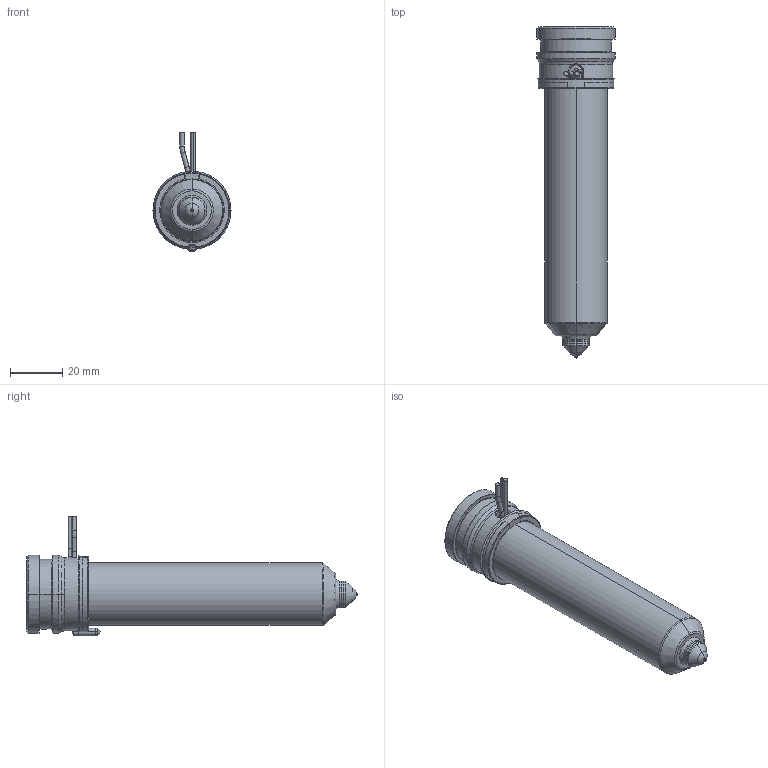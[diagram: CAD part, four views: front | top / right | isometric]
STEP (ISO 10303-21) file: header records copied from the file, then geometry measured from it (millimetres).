
FILE_DESCRIPTION((''),'2;1');
FILE_NAME('MPN-10-29-VX10-106-A','2026-02-05T12:40:48',('UPTIO'),('Thermoplay S.p.A.'),'CREO PARAMETRIC BY PTC INC, 2023494','CREO PARAMETRIC BY PTC INC, 2023494','');
FILE_SCHEMA(('CONFIG_CONTROL_DESIGN','SHAPE_APPEARANCE_LAYERS_GROUPS'));
Length unit declared in the file: millimetre
Products named in the file (1): MPN-10-29-VX10-106-A
Bounding box: 30 x 127.5 x 46 mm (x, y, z)
Volume: 39881 mm3; surface area: 40040 mm2
Topology: 2 solids, 3 shells, 557 faces, 1459 edges, 901 vertices
Faces by surface type: cylinder 182, plane 144, bspline 76, torus 72, cone 70, sphere 9, extrusion 4
Entity records: 27759 total; most frequent: CARTESIAN_POINT 11252, ORIENTED_EDGE 2906, DIRECTION 2711, EDGE_CURVE 1453, AXIS2_PLACEMENT_3D 1078, VERTEX_POINT 901, CIRCLE 600, EDGE_LOOP 586
